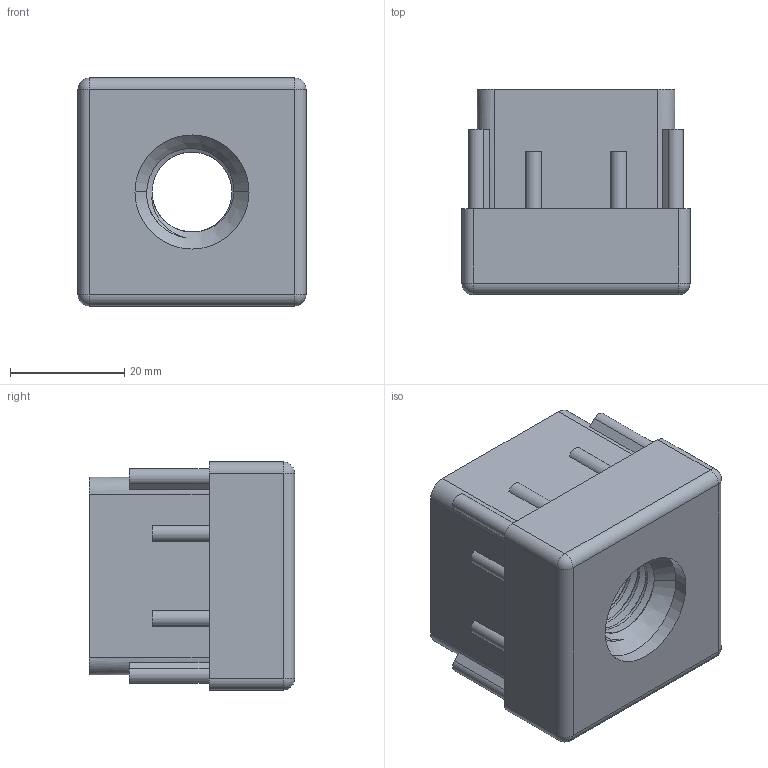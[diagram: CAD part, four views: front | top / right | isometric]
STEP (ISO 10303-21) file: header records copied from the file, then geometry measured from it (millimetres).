
FILE_DESCRIPTION (( 'STEP AP214' ), '1' );
FILE_NAME ('FB-40-M16.step', '2021-01-27T06:32:13', ( '' ), ( '' ), 'SwSTEP 2.0', 'SolidWorks 2019', '' );
FILE_SCHEMA (( 'AUTOMOTIVE_DESIGN' ));
Length unit declared in the file: millimetre
Products named in the file (2): FB-40-M16
Bounding box: 40 x 36 x 40 mm (x, y, z)
Volume: 38356.8 mm3; surface area: 10265.8 mm2
Topology: 1 solids, 1 shells, 87 faces, 236 edges, 148 vertices
Faces by surface type: cylinder 43, plane 31, cone 6, sphere 4, bspline 3
Entity records: 4572 total; most frequent: CARTESIAN_POINT 2361, ORIENTED_EDGE 464, DIRECTION 460, EDGE_CURVE 232, AXIS2_PLACEMENT_3D 168, VERTEX_POINT 148, VECTOR 124, LINE 124
